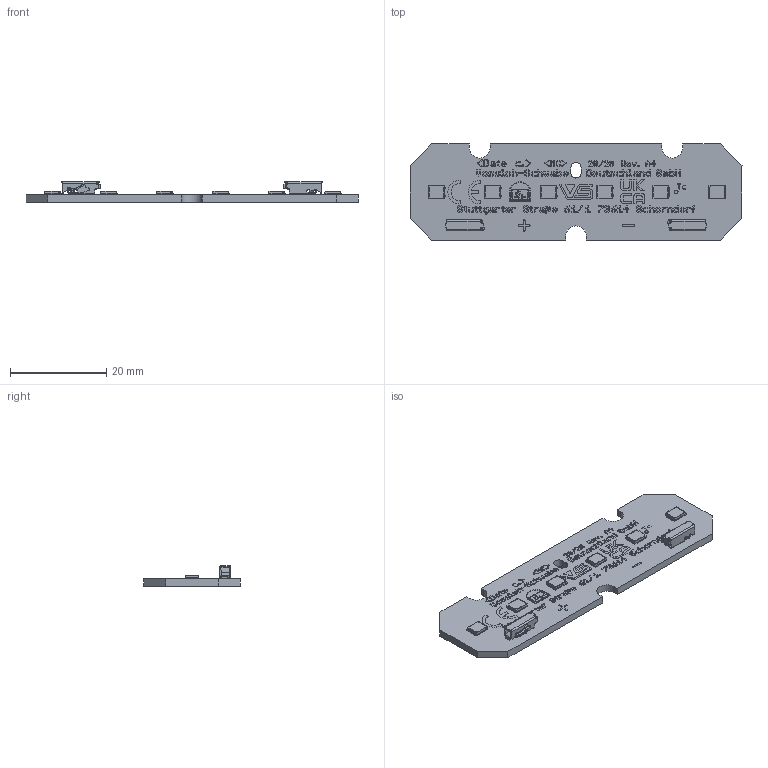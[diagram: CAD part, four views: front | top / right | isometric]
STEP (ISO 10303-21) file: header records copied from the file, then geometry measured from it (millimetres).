
FILE_DESCRIPTION(('Creo Elements/Direct Modeling STEP Export'),'2;1');
FILE_NAME('3D-Model_WU-M-666-STC.stp','2025-07-29T10:06:48',(''),(''),'PTC Creo Elements/Direct Modeling STEP processor for AP214 (Solid Model)','PTC Creo Elements/Direct Modeling 19.0E 27-Jun-2016 (C) Parametric Technology GmbH','');
FILE_SCHEMA(('AUTOMOTIVE_DESIGN { 1 0 10303 214 1 1 1 1 }'));
Length unit declared in the file: millimetre
Products named in the file (126): p1.1; p1; Print-Service.42; Print-Service.39; Print-Service.40; Print-Service.41; Print-Service.31; Print-Service.22; Print-Service.30; Print-Service.29; Print-Service.25; Print-Service.27; Print-Service.28; Print-Service.26; Print-Service.21; Print-Service.23; Print-Service.24; Print-Service.43; Print-Service.44; Print-Service.61; Print-Service.62; Print-Service.58; Print-Service.51; Print-Service.53; Print-Service.46; Print-Service.48; Print-Service.50; Print-Service.52; Print-Service.64; Print-Service.45; Print-Service.54; Print-Service.56; Print-Service.60; Print-Service.49; Print-Service.57; Print-Service.59; Print-Service.67; Print-Service.55; Print-Service.47; Print-Service.65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
Assembly tree (115 placements, depth 2):
  p1.1
  p1
  Print
    Print-Service.38
    Print-Service.37
    Print-Service.32
    Print-Service.34
    Print-Service.33
    Print-Service.36
    Print-Service.35
    Print-Service.73
    Print-Service.104
    Print-Service.88
    Print-Service.77
    Print-Service.68
    Print-Service.85
    Print-Service.75
    Print-Service.99
    Print-Service.86
    Print-Service.101
    Print-Service.79
    Print-Service.95
    Print-Service.78
    Print-Service.72
    Print-Service.92
    Print-Service.87
    Print-Service.98
    Print-Service.106
    Print-Service.93
    Print-Service.91
    Print-Service.76
    Print-Service.71
    Print-Service.69
    Print-Service.97
    Print-Service.94
    Print-Service.89
    Print-Service.80
    Print-Service.70
    Print-Service.84
    Print-Service.96
    Print-Service.103
    Print-Service.90
    Print-Service.74
    Print-Service.102
    Print-Service.81
    Print-Service.82
    Print-Service.105
    Print-Service.100
    Print-Service.83
    Print-Service.12
    Print-Service.10
    Print-Service.2
    Print-Service.13
    Print-Service.8
    Print-Service.9
    Print-Service.3
    Print-Service.7
    Print-Service.11
    Print-Service.4
    Print-Service.16
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Bounding box: 69 x 20 x 4.3 mm (x, y, z)
Volume: 2157.1 mm3; surface area: 3558.8 mm2
Topology: 116 solids, 116 shells, 3199 faces, 8793 edges, 5834 vertices
Faces by surface type: plane 2359, cylinder 840
Entity records: 120965 total; most frequent: CARTESIAN_POINT 17022, ORIENTED_EDGE 16626, DIRECTION 16221, EDGE_CURVE 8313, VECTOR 6663, LINE 6663, VERTEX_POINT 5522, AXIS2_PLACEMENT_3D 4779
